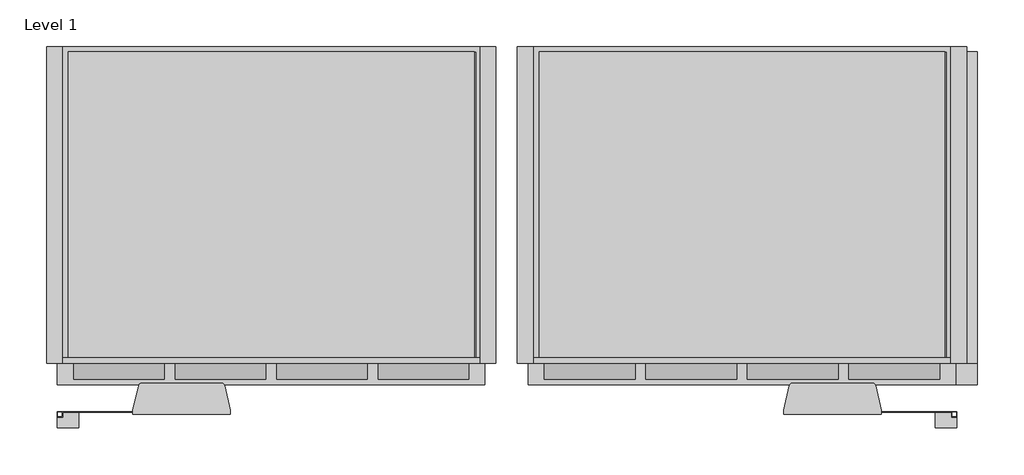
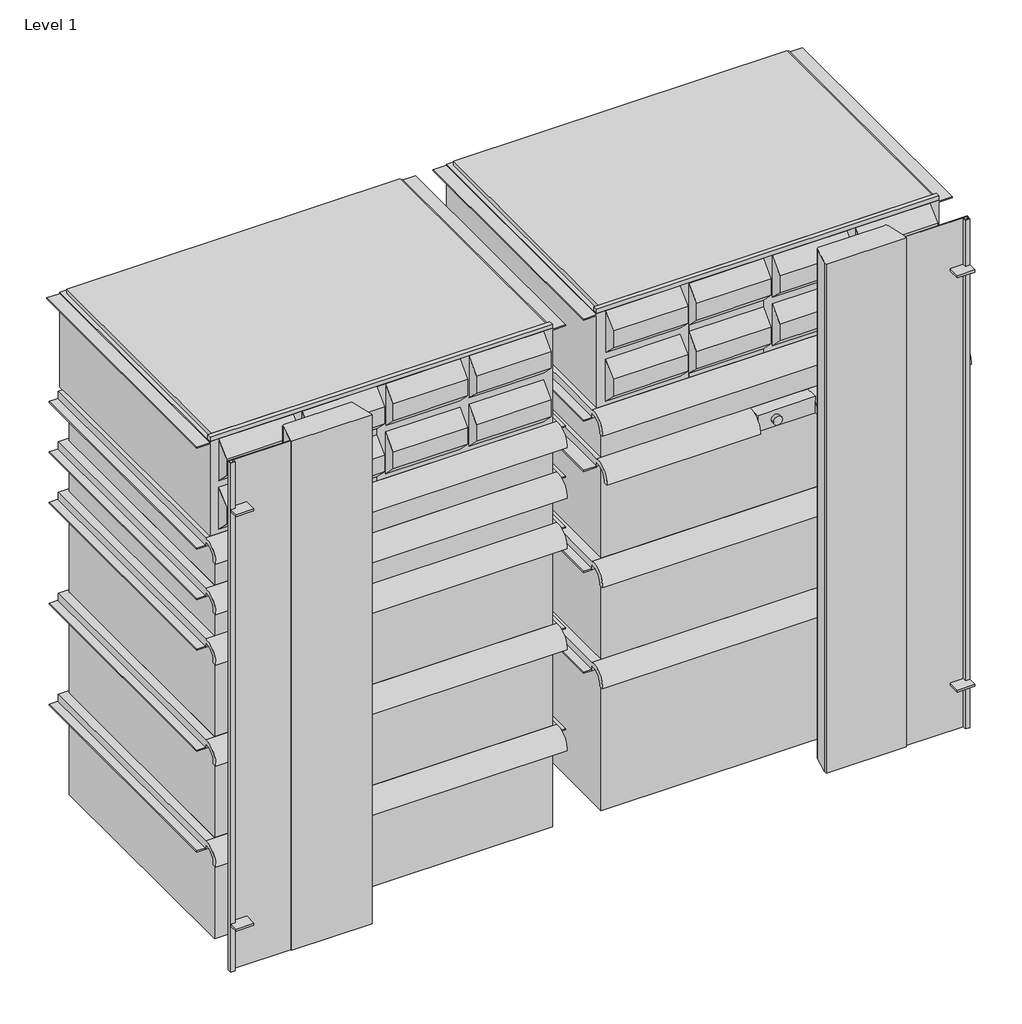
# One storey, incomplete: 15 furniture elements.
"""IFC4 building model written with IfcOpenShell, lengths in millimetres."""

from ifc_helpers import new_model, si_unit, origin, place, context, project, spatial, transform, mapped, element, save
from components import furniture_09c434e6, furniture_b08edb2a, furniture_f594aa21, furniture_e8bd7afb, furniture_41c99ade, furniture_9c072757, furniture_b8eafee2, furniture_43992efd, furniture_066802e6, furniture_cd2bd026, furniture_279ede34, furniture_d049413f

model = new_model("IFC4")

# Units and contexts
model_context = context("Model", 3, world=origin())
ifc_project = project(units=[si_unit("LENGTHUNIT", "METRE", prefix="MILLI")], contexts=[model_context])

# Site, building, storey
site = spatial("IfcSite", under=ifc_project)
building = spatial("IfcBuilding", under=site)
storey = spatial("IfcBuildingStorey", under=building, Name="Level 1", Elevation=0.0)

# Furniture
placement = place(None, origin())
furniture_shape = furniture_09c434e6(model_context)
element("IfcFurniture", 1, ObjectType="HermanMiller_Carts_CT501_Drawer : 3\"H x 15\"D x 20\"W", at=placement, inside=storey, context=model_context, shape_type="MappedRepresentation", body=[
    mapped(furniture_shape, transform((335.0575013, -323.6589726, -1035.05), x_axis=(1.0, 0.0, 0.0), y_axis=(0.0, 1.0, 0.0), z_axis=(0.0, 0.0, 1.0))),
])
furniture_2_shape = furniture_b08edb2a(model_context)
element("IfcFurniture", 2, ObjectType="HermanMiller_Carts_CT501_Drawer : 3\"H x 15\"D x 20\"W", at=placement, inside=storey, context=model_context, shape_type="MappedRepresentation", body=[
    mapped(furniture_2_shape, transform((335.0575013, -323.6589726, -1035.05), x_axis=(1.0, 0.0, 0.0), y_axis=(0.0, 1.0, 0.0), z_axis=(0.0, 0.0, 1.0))),
])
element("IfcFurniture", 3, ObjectType="HermanMiller_Carts_CT501_Drawer : 3\"H x 15\"D x 20\"W", at=placement, inside=storey, context=model_context, shape_type="MappedRepresentation", body=[
    mapped(furniture_2_shape, transform((887.4139205, -323.6589726, -1035.05), x_axis=(1.0, 0.0, 0.0), y_axis=(0.0, 1.0, 0.0), z_axis=(0.0, 0.0, 1.0))),
])
furniture_3_shape = furniture_f594aa21(model_context)
element("IfcFurniture", 4, ObjectType="HermanMiller_Carts_CT501_Drawer : 6\"H x 15\"D x 20\"W", at=placement, inside=storey, context=model_context, shape_type="MappedRepresentation", body=[
    mapped(furniture_3_shape, transform((335.0575013, -323.6589726, -1035.05), x_axis=(1.0, 0.0, 0.0), y_axis=(0.0, 1.0, 0.0), z_axis=(0.0, 0.0, 1.0))),
])
furniture_4_shape = furniture_e8bd7afb(model_context)
element("IfcFurniture", 5, ObjectType="HermanMiller_Carts_CT501_Drawer : 6\"H x 15\"D x 20\"W", at=placement, inside=storey, context=model_context, shape_type="MappedRepresentation", body=[
    mapped(furniture_4_shape, transform((335.0575013, -323.6589726, -1035.05), x_axis=(1.0, 0.0, 0.0), y_axis=(0.0, 1.0, 0.0), z_axis=(0.0, 0.0, 1.0))),
])
furniture_5_shape = furniture_41c99ade(model_context)
element("IfcFurniture", 6, ObjectType="HermanMiller_Carts_CT501_Drawer : 6\"H x 15\"D x 20\"W", at=placement, inside=storey, context=model_context, shape_type="MappedRepresentation", body=[
    mapped(furniture_5_shape, transform((335.0575013, -323.6589726, -1035.05), x_axis=(1.0, 0.0, 0.0), y_axis=(0.0, 1.0, 0.0), z_axis=(0.0, 0.0, 1.0))),
])
furniture_6_shape = furniture_9c072757(model_context)
element("IfcFurniture", 7, ObjectType="HermanMiller_Carts_CT501_Drawer : 6\"H x 15\"D x 20\"W", at=placement, inside=storey, context=model_context, shape_type="MappedRepresentation", body=[
    mapped(furniture_6_shape, transform((887.4139205, -323.6589726, -1035.05), x_axis=(1.0, 0.0, 0.0), y_axis=(0.0, 1.0, 0.0), z_axis=(0.0, 0.0, 1.0))),
])
furniture_7_shape = furniture_b8eafee2(model_context)
element("IfcFurniture", 8, ObjectType="HermanMiller_Carts_CT501_Drawer : 9\"H x 15\"D x 20\"W", at=placement, inside=storey, context=model_context, shape_type="MappedRepresentation", body=[
    mapped(furniture_7_shape, transform((887.4139205, -323.6589726, -1035.05), x_axis=(1.0, 0.0, 0.0), y_axis=(0.0, 1.0, 0.0), z_axis=(0.0, 0.0, 1.0))),
])
furniture_8_shape = furniture_43992efd(model_context)
element("IfcFurniture", 9, ObjectType="HermanMiller_Carts_CT501_Drawer : 6\"H X 15\"D X 20\"W WITH STOP Key Diff", at=placement, inside=storey, context=model_context, shape_type="MappedRepresentation", body=[
    mapped(furniture_8_shape, transform((887.4139205, -323.6589726, -1035.05), x_axis=(1.0, 0.0, 0.0), y_axis=(0.0, 1.0, 0.0), z_axis=(0.0, 0.0, 1.0))),
])
furniture_9_shape = furniture_066802e6(model_context)
element("IfcFurniture", 10, ObjectType="HermanMiller_Carts_CT542_Cassette : 6\"H x 15\"D x 20\"W Bin", at=placement, inside=storey, context=model_context, shape_type="MappedRepresentation", body=[
    mapped(furniture_9_shape, transform((906.6864204, -323.6589726, -1035.05), x_axis=(1.0, 0.0, 0.0), y_axis=(0.0, 1.0, 0.0), z_axis=(0.0, 0.0, 1.0))),
])
element("IfcFurniture", 11, ObjectType="HermanMiller_Carts_CT542_Cassette : 6\"H x 15\"D x 20\"W Bin", at=placement, inside=storey, context=model_context, shape_type="MappedRepresentation", body=[
    mapped(furniture_9_shape, transform((354.3300012, -323.6589726, -1035.05), x_axis=(1.0, 0.0, 0.0), y_axis=(0.0, 1.0, 0.0), z_axis=(0.0, 0.0, 1.0))),
])
furniture_10_shape = furniture_cd2bd026(model_context)
element("IfcFurniture", 12, ObjectType="HermanMiller_Carts_CT710_LockBarRight : 42H Cart Lft Side Lock Keyed Alike", at=placement, inside=storey, context=model_context, shape_type="MappedRepresentation", body=[
    mapped(furniture_10_shape, transform((635.0, -517.0164714, -815.975), x_axis=(1.0, 0.0, 0.0), y_axis=(0.0, 1.0, 0.0), z_axis=(0.0, 0.0, 1.0))),
])
furniture_11_shape = furniture_279ede34(model_context)
element("IfcFurniture", 13, ObjectType="HermanMiller_Carts_CT710_LockBarRight : 42H Cart Rt Side Lock Keyed Alike", at=placement, inside=storey, context=model_context, shape_type="MappedRepresentation", body=[
    mapped(furniture_11_shape, transform((1066.8, -517.0164714, -815.975), x_axis=(1.0, 0.0, 0.0), y_axis=(0.0, 1.0, 0.0), z_axis=(0.0, 0.0, 1.0))),
])
furniture_12_shape = furniture_d049413f(model_context)
element("IfcFurniture", 14, ObjectType="HermanMiller_Carts_CT542_CassetteCover : 15\"D x 20\"W Cover", at=placement, inside=storey, context=model_context, shape_type="MappedRepresentation", body=[
    mapped(furniture_12_shape, transform((636.8114204, -493.5214726, 979.500197), x_axis=(1.0, 0.0, 0.0), y_axis=(0.0, 1.0, 0.0), z_axis=(0.0, 0.0, 1.0))),
])
element("IfcFurniture", 15, ObjectType="HermanMiller_Carts_CT542_CassetteCover : 15\"D x 20\"W Cover", at=placement, inside=storey, context=model_context, shape_type="MappedRepresentation", body=[
    mapped(furniture_12_shape, transform((84.4550012, -493.5214726, 979.500197), x_axis=(1.0, 0.0, 0.0), y_axis=(0.0, 1.0, 0.0), z_axis=(0.0, 0.0, 1.0))),
])

save(model, "model.ifc")
